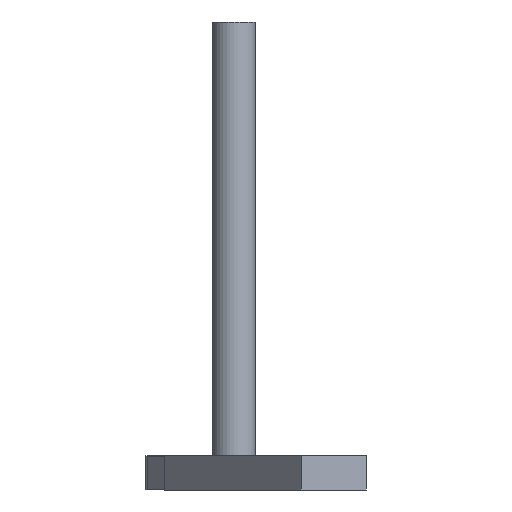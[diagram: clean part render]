
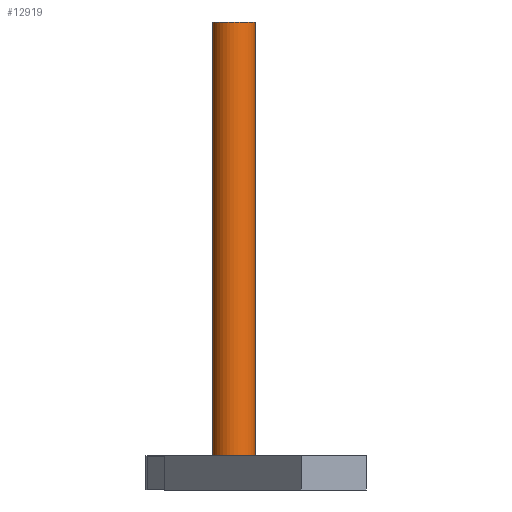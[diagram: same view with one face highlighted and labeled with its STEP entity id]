
A CAD part, front view. The second image highlights one B-rep face of the part: STEP entity #12919.
In plain terms, the highlighted cylindrical face has radius 177.673 mm (diameter 355.346 mm), a full revolution.
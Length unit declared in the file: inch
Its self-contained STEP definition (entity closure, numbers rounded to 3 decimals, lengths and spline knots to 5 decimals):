
#1537 = EDGE_CURVE ( 'NONE', #10975, #10975, #2307, .T. ) ;
#1623 = CARTESIAN_POINT ( 'NONE',  ( 0., 0., 6.995 ) ) ;
#1756 = VERTEX_POINT ( 'NONE', #8941 ) ;
#2307 = CIRCLE ( 'NONE', #3492, 6.995 ) ;
#3001 = DIRECTION ( 'NONE',  ( 0., 1., 0. ) ) ;
#3492 = AXIS2_PLACEMENT_3D ( 'NONE', #11764, #3001, #22818 ) ;
#3706 = CARTESIAN_POINT ( 'NONE',  ( 0., 140., 0. ) ) ;
#5947 = DIRECTION ( 'NONE',  ( 0., 0., 1. ) ) ;
#7016 = FACE_OUTER_BOUND ( 'NONE', #20538, .T. ) ;
#7250 = DIRECTION ( 'NONE',  ( 0., 0., -1. ) ) ;
#8113 = EDGE_LOOP ( 'NONE', ( #16644 ) ) ;
#8941 = CARTESIAN_POINT ( 'NONE',  ( 0., 140., 6.995 ) ) ;
#10975 = VERTEX_POINT ( 'NONE', #1623 ) ;
#11764 = CARTESIAN_POINT ( 'NONE',  ( 0., 0., 0. ) ) ;
#12919 = ADVANCED_FACE ( 'NONE', ( #16271, #7016 ), #16030, .T. ) ;
#13071 = CIRCLE ( 'NONE', #20657, 6.995 ) ;
#15531 = AXIS2_PLACEMENT_3D ( 'NONE', #21626, #16154, #7250 ) ;
#16030 = CYLINDRICAL_SURFACE ( 'NONE', #15531, 6.995 ) ;
#16154 = DIRECTION ( 'NONE',  ( 0., -1., 0. ) ) ;
#16271 = FACE_OUTER_BOUND ( 'NONE', #8113, .T. ) ;
#16644 = ORIENTED_EDGE ( 'NONE', *, *, #17270, .F. ) ;
#17270 = EDGE_CURVE ( 'NONE', #1756, #1756, #13071, .T. ) ;
#18111 = ORIENTED_EDGE ( 'NONE', *, *, #1537, .T. ) ;
#18292 = DIRECTION ( 'NONE',  ( 0., 1., 0. ) ) ;
#20538 = EDGE_LOOP ( 'NONE', ( #18111 ) ) ;
#20657 = AXIS2_PLACEMENT_3D ( 'NONE', #3706, #18292, #5947 ) ;
#21626 = CARTESIAN_POINT ( 'NONE',  ( 0., 140., 0. ) ) ;
#22818 = DIRECTION ( 'NONE',  ( 0., 0., 1. ) ) ;
